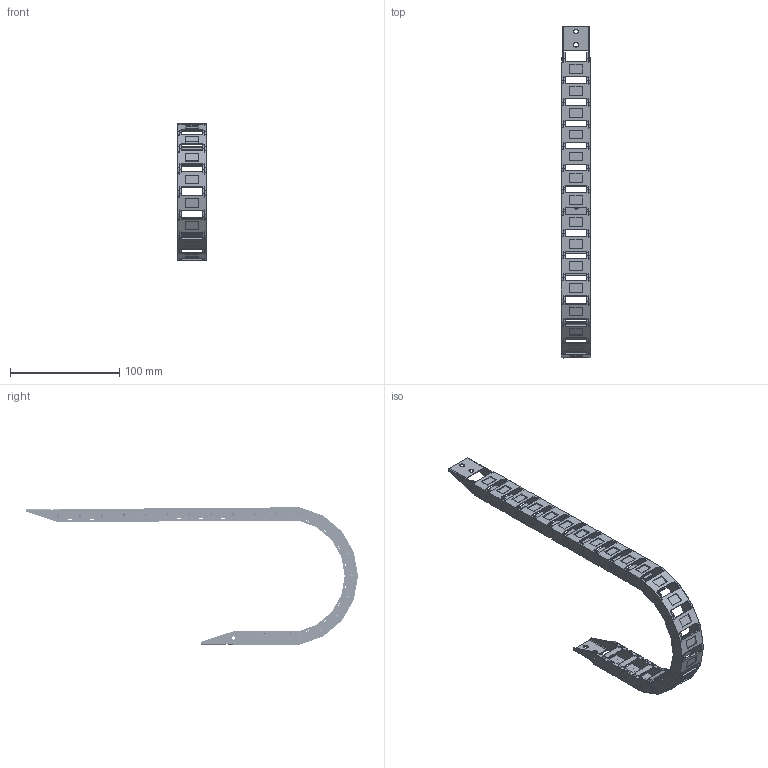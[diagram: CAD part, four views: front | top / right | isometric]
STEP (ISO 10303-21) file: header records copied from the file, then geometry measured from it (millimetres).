
FILE_DESCRIPTION(/* description */ (''),/* implementation_level */ '2;1');
FILE_NAME(/* name */ '6.y-drive#6.17#MHPUS102-19-23-S',/* time_stamp */ '2014-12-01T20:17:23+01:00',/* author */ (''),/* organization */ (''),/* preprocessor_version */ 'ST-DEVELOPER v14',/* originating_system */ '',/* authorisation */ '');
FILE_SCHEMA (('AUTOMOTIVE_DESIGN'));
Length unit declared in the file: millimetre
Products named in the file (3): Document; MHPUS102-19-23-S; MHPUS102
Assembly tree (23 placements, depth 3):
  Document
    MHPUS102-19-23-S
      MHPUS102  x22
Bounding box: 27 x 303.59 x 125.43 mm (x, y, z)
Surface area: 66460.2 mm2 (no closed solid volume)
Topology: 0 solids, 2100 shells, 2100 faces, 7066 edges, 7066 vertices
Faces by surface type: plane 1248, bspline 852
Entity records: 16356 total; most frequent: CARTESIAN_POINT 8190, B_SPLINE_CURVE_WITH_KNOTS 994, ORIENTED_EDGE 661, PCURVE 661, DEFINITIONAL_REPRESENTATION 661, SURFACE_CURVE 661, EDGE_CURVE 661, VERTEX_POINT 661
